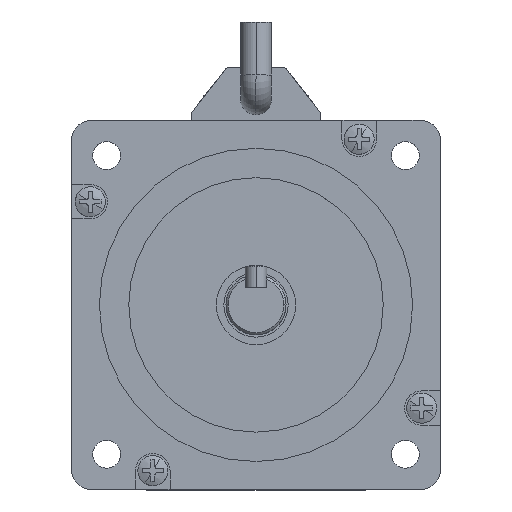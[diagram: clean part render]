
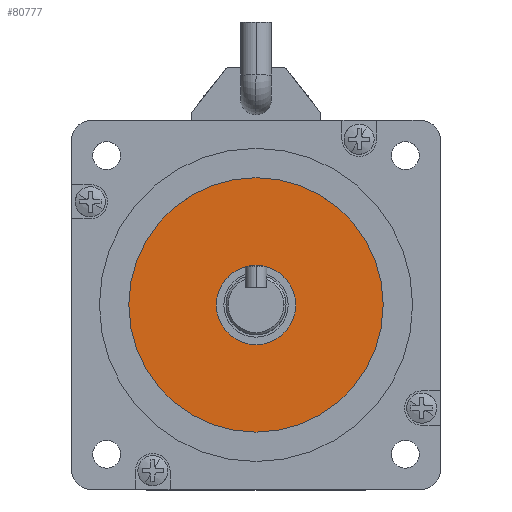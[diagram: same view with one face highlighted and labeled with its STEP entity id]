
A CAD part, top view. The second image highlights one B-rep face of the part: STEP entity #80777.
In plain terms, the highlighted planar face has unit normal (0, 0, 1).
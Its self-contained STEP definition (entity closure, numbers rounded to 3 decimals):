
#4177 = ORIENTED_EDGE ( 'NONE', *, *, #75111, .F. ) ;
#4399 = CARTESIAN_POINT ( 'NONE',  ( -15.03, 0.378, -7.5 ) ) ;
#6403 = FACE_OUTER_BOUND ( 'NONE', #28433, .T. ) ;
#8836 = EDGE_CURVE ( 'NONE', #51918, #27731, #35097, .T. ) ;
#10947 = DIRECTION ( 'NONE',  ( 1., 0., 0. ) ) ;
#11578 = ORIENTED_EDGE ( 'NONE', *, *, #8836, .F. ) ;
#12592 = CARTESIAN_POINT ( 'NONE',  ( -44.683, 0.378, -7.5 ) ) ;
#13554 = EDGE_LOOP ( 'NONE', ( #4177, #11578 ) ) ;
#18179 = CARTESIAN_POINT ( 'NONE',  ( -15.03, 0.378, -7.5 ) ) ;
#19432 = AXIS2_PLACEMENT_3D ( 'NONE', #4399, #50389, #10947 ) ;
#21803 = FACE_BOUND ( 'NONE', #13554, .T. ) ;
#23389 = CIRCLE ( 'NONE', #19432, 9.25 ) ;
#23924 = EDGE_CURVE ( 'NONE', #74153, #51618, #39370, .T. ) ;
#24000 = DIRECTION ( 'NONE',  ( 0., 0., 1. ) ) ;
#24813 = CARTESIAN_POINT ( 'NONE',  ( -24.28, 0.378, -7.5 ) ) ;
#24852 = DIRECTION ( 'NONE',  ( 1., 0., 0. ) ) ;
#26482 = CARTESIAN_POINT ( 'NONE',  ( -15.03, 0.378, -7.5 ) ) ;
#27731 = VERTEX_POINT ( 'NONE', #81284 ) ;
#28433 = EDGE_LOOP ( 'NONE', ( #83514, #55877 ) ) ;
#29069 = AXIS2_PLACEMENT_3D ( 'NONE', #18179, #64188, #24852 ) ;
#33157 = DIRECTION ( 'NONE',  ( 1., 0., 0. ) ) ;
#35056 = AXIS2_PLACEMENT_3D ( 'NONE', #63338, #24000, #69946 ) ;
#35097 = CIRCLE ( 'NONE', #35056, 9.25 ) ;
#36141 = DIRECTION ( 'NONE',  ( 1., 0., 0. ) ) ;
#39370 = CIRCLE ( 'NONE', #29069, 29.653 ) ;
#49716 = EDGE_CURVE ( 'NONE', #51618, #74153, #63451, .T. ) ;
#50389 = DIRECTION ( 'NONE',  ( 0., 0., 1. ) ) ;
#51618 = VERTEX_POINT ( 'NONE', #67245 ) ;
#51918 = VERTEX_POINT ( 'NONE', #24813 ) ;
#55638 = PLANE ( 'NONE',  #68311 ) ;
#55877 = ORIENTED_EDGE ( 'NONE', *, *, #23924, .T. ) ;
#62222 = CARTESIAN_POINT ( 'NONE',  ( -15.03, 0.378, -7.5 ) ) ;
#62284 = AXIS2_PLACEMENT_3D ( 'NONE', #26482, #72428, #33157 ) ;
#63338 = CARTESIAN_POINT ( 'NONE',  ( -15.03, 0.378, -7.5 ) ) ;
#63451 = CIRCLE ( 'NONE', #62284, 29.653 ) ;
#64188 = DIRECTION ( 'NONE',  ( 0., 0., 1. ) ) ;
#67245 = CARTESIAN_POINT ( 'NONE',  ( 14.622, 0.378, -7.5 ) ) ;
#68311 = AXIS2_PLACEMENT_3D ( 'NONE', #62222, #75429, #36141 ) ;
#69946 = DIRECTION ( 'NONE',  ( 1., 0., 0. ) ) ;
#72428 = DIRECTION ( 'NONE',  ( 0., 0., 1. ) ) ;
#74153 = VERTEX_POINT ( 'NONE', #12592 ) ;
#75111 = EDGE_CURVE ( 'NONE', #27731, #51918, #23389, .T. ) ;
#75429 = DIRECTION ( 'NONE',  ( 0., 0., 1. ) ) ;
#80777 = ADVANCED_FACE ( 'NONE', ( #21803, #6403 ), #55638, .T. ) ;
#81284 = CARTESIAN_POINT ( 'NONE',  ( -5.78, 0.378, -7.5 ) ) ;
#83514 = ORIENTED_EDGE ( 'NONE', *, *, #49716, .T. ) ;
